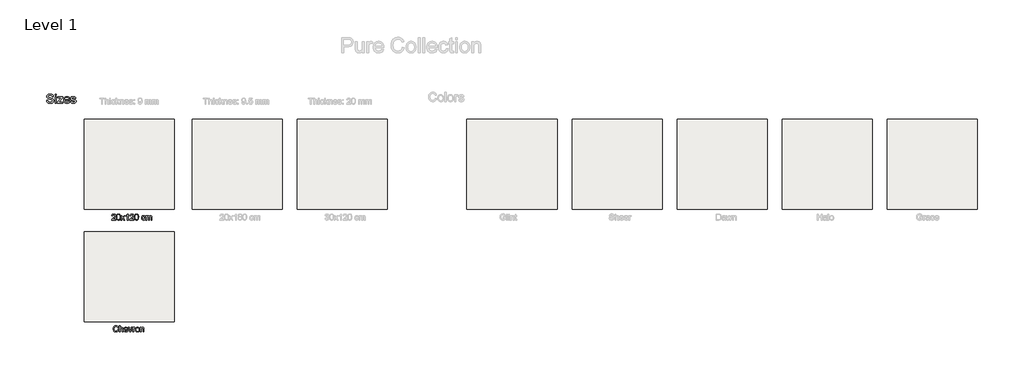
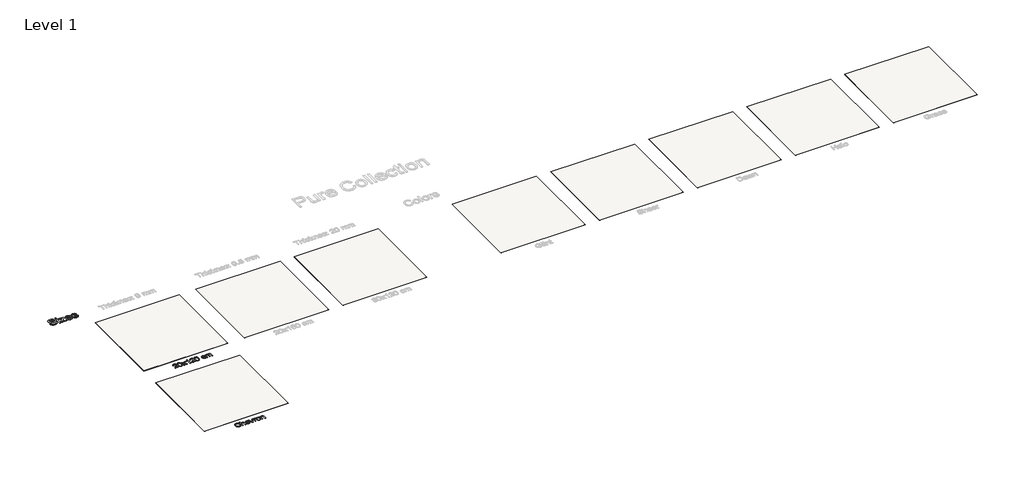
# One storey, part 1 of 5: 9 slabs, 3 proxies.
"""IFC4 building model written with IfcOpenShell, lengths in millimetres."""

from ifc_helpers import new_model, si_unit, frame, origin, origin_with_axes, place, context, project, spatial, polyline, outline, extrude, element, save

model = new_model("IFC4")

# Units and contexts
model_context = context("Model", 3, world=origin())
ifc_project = project(units=[si_unit("LENGTHUNIT", "METRE", prefix="MILLI")], contexts=[model_context])

# Site, building, storey
site = spatial("IfcSite", under=ifc_project)
building = spatial("IfcBuilding", under=site)
storey = spatial("IfcBuildingStorey", under=building, Name="Level 1", Elevation=0.0)

# Proxies
placement = place(None, origin())
element("IfcBuildingElementProxy", 1, Name="400mm Arial", ObjectType="400mm Arial", at=placement, inside=storey, context=model_context, shape_type="SweptSolid", body=[
    extrude(outline(polyline([(-22046.8810506, 3955.3358974), (-22046.8810506, 3905.1077423), (-22310.5788647, 3905.1077423), (-22309.4752187, 3922.7906035), (-22305.1832621, 3939.7377008), (-22292.7856389, 3966.8015529), (-22274.624531, 3993.0560646), (-22248.3700193, 4020.5368497), (-22211.6921844, 4051.2795217), (-22157.5031665, 4099.4230122), (-22125.0191863, 4134.9604129), (-22108.7955903, 4163.8023613), (-22103.387725, 4191.8594948), (-22108.5012847, 4217.0103605), (-22123.8419639, 4237.9183206), (-22147.4231998, 4252.008201), (-22177.2584296, 4256.7048278), (-22208.5897129, 4252.1185656), (-22232.9312382, 4238.359779), (-22248.6397994, 4216.5075885), (-22254.0721902, 4187.6411146), (-22304.3003453, 4193.919634), (-22299.9807976, 4219.8491833), (-22292.1234513, 4242.5045828), (-22280.7283065, 4261.8858326), (-22265.7953631, 4277.9929326), (-22247.6679778, 4290.6542046), (-22226.6895071, 4299.6979703), (-22202.8599508, 4305.1242298), (-22176.1793091, 4306.9329829), (-22149.2595441, 4304.9218947), (-22125.3012292, 4298.8886299), (-22104.3043643, 4288.8331887), (-22086.2689495, 4274.7555711), (-22071.7835959, 4257.6981092), (-22061.4369148, 4238.7031355), (-22055.2289062, 4217.77065), (-22053.1595699, 4194.9006526), (-22055.3913874, 4170.8779584), (-22062.0868397, 4147.272197), (-22073.9694281, 4123.2617654), (-22091.762654, 4098.0250606), (-22120.1263558, 4067.8955252), (-22163.7203722, 4029.206602), (-22221.5023709, 3980.8914333), (-22244.1639018, 3955.3358974), (-22046.8810506, 3955.3358974)])), origin_with_axes(), (0.0, 0.0, 1.0), 5.0),
    extrude(outline(polyline([(-21996.6528955, 4102.783001), (-21992.9618128, 4167.1010365), (-21981.8885647, 4218.3960494), (-21963.5435159, 4257.4528546), (-21951.6854529, 4272.6862348), (-21938.0370309, 4285.0562669), (-21922.5522646, 4294.6273302), (-21905.1851687, 4301.4638039), (-21864.8039884, 4306.9329829), (-21833.8528499, 4303.6956213), (-21806.1390729, 4293.9835367), (-21782.9625072, 4278.1768736), (-21765.6230025, 4256.6557769), (-21752.5264035, 4229.6041875), (-21742.0785548, 4197.2060465), (-21735.2359497, 4156.0645767), (-21732.9550813, 4102.783001), (-21736.6093758, 4038.8328476), (-21747.5722593, 3987.660462), (-21765.8069435, 3948.5668687), (-21777.6374153, 3933.2875031), (-21791.2766403, 3920.8530917), (-21806.7798007, 3911.2176491), (-21824.2020789, 3904.3351901), (-21864.8039884, 3898.8292229), (-21892.4687144, 3901.2204559), (-21916.9941808, 3908.3941548), (-21938.3803874, 3920.3503196), (-21956.6273344, 3937.0889504), (-21974.1385174, 3967.3472445), (-21986.6465052, 4005.0490177), (-21994.1512979, 4050.1942698), (-21996.6528955, 4102.783001)]), holes=[polyline([(-21946.4247404, 4102.8811029), (-21944.9532124, 4059.2165758), (-21940.5386285, 4023.8723131), (-21933.1809886, 3996.8483149), (-21922.8802927, 3978.1445811), (-21910.4213558, 3965.4189297), (-21896.5889928, 3956.3291788), (-21881.3832037, 3950.8753282), (-21864.8039884, 3949.057378), (-21848.2247732, 3950.8814596), (-21833.018984, 3956.3537042), (-21819.186621, 3965.474112), (-21806.7276841, 3978.2426829), (-21796.4269882, 3996.9770736), (-21789.0693483, 4023.9949404), (-21784.6547644, 4059.2962835), (-21783.1832364, 4102.8811029), (-21784.6057135, 4145.3898675), (-21788.8731446, 4180.1117964), (-21795.9855298, 4207.0468898), (-21805.9428692, 4226.1951477), (-21818.1933396, 4239.5431328), (-21832.1851182, 4249.0774078), (-21847.9182048, 4254.7979728), (-21865.3925996, 4256.7048278), (-21881.8859757, 4255.0248334), (-21896.8342475, 4249.9848501), (-21910.2374148, 4241.5848778), (-21922.0954778, 4229.8249167), (-21932.7395302, 4208.9782703), (-21940.3424247, 4180.8720859), (-21944.9041615, 4145.5063634), (-21946.4247404, 4102.8811029)])]), origin_with_axes(), (0.0, 0.0, 1.0), 5.0),
    extrude(outline(polyline([(-21707.8410038, 3905.1077423), (-21600.5175631, 4053.5358646), (-21701.5624844, 4200.1981534), (-21641.3279391, 4200.1981534), (-21592.571312, 4129.4667084), (-21569.7135773, 4096.2101761), (-21549.8970005, 4123.4824946), (-21494.3713447, 4200.1981534), (-21433.9405957, 4200.1981534), (-21540.086814, 4053.4377628), (-21437.8646703, 3905.1077423), (-21498.1973175, 3905.1077423), (-21559.8052889, 3994.3804398), (-21570.9889016, 4010.7634513), (-21647.4102547, 3905.1077423), (-21707.8410038, 3905.1077423)])), origin_with_axes(), (0.0, 0.0, 1.0), 5.0),
    extrude(outline(polyline([(-21218.1164918, 3905.1077423), (-21268.3446469, 3905.1077423), (-21268.3446469, 4218.2488966), (-21289.3139206, 4201.2895366), (-21315.9240516, 4184.3547021), (-21368.800957, 4158.9953699), (-21368.800957, 4206.4766728), (-21329.3517444, 4227.9364558), (-21295.1755071, 4253.4674663), (-21268.2342823, 4280.6171575), (-21250.4901074, 4306.9329829), (-21218.1164918, 4306.9329829), (-21218.1164918, 3905.1077423)])), origin_with_axes(), (0.0, 0.0, 1.0), 5.0),
    extrude(outline(polyline([(-20841.4053288, 3955.3358974), (-20841.4053288, 3905.1077423), (-21105.1031429, 3905.1077423), (-21103.9994969, 3922.7906035), (-21099.7075403, 3939.7377008), (-21087.3099171, 3966.8015529), (-21069.1488092, 3993.0560646), (-21042.8942975, 4020.5368497), (-21006.2164626, 4051.2795217), (-20952.0274447, 4099.4230122), (-20919.5434645, 4134.9604129), (-20903.3198685, 4163.8023613), (-20897.9120032, 4191.8594948), (-20903.0255629, 4217.0103605), (-20918.3662421, 4237.9183206), (-20941.947478, 4252.008201), (-20971.7827078, 4256.7048278), (-21003.1139911, 4252.1185656), (-21027.4555165, 4238.359779), (-21043.1640776, 4216.5075885), (-21048.5964684, 4187.6411146), (-21098.8246235, 4193.919634), (-21094.5050758, 4219.8491833), (-21086.6477295, 4242.5045828), (-21075.2525847, 4261.8858326), (-21060.3196414, 4277.9929326), (-21042.192256, 4290.6542046), (-21021.2137853, 4299.6979703), (-20997.384229, 4305.1242298), (-20970.7035873, 4306.9329829), (-20943.7838223, 4304.9218947), (-20919.8255074, 4298.8886299), (-20898.8286425, 4288.8331887), (-20880.7932277, 4274.7555711), (-20866.3078741, 4257.6981092), (-20855.961193, 4238.7031355), (-20849.7531844, 4217.77065), (-20847.6838481, 4194.9006526), (-20849.9156656, 4170.8779584), (-20856.6111179, 4147.272197), (-20868.4937063, 4123.2617654), (-20886.2869322, 4098.0250606), (-20914.650634, 4067.8955252), (-20958.2446504, 4029.206602), (-21016.0266491, 3980.8914333), (-21038.68818, 3955.3358974), (-20841.4053288, 3955.3358974)])), origin_with_axes(), (0.0, 0.0, 1.0), 5.0),
    extrude(outline(polyline([(-20791.1771737, 4102.783001), (-20787.486091, 4167.1010365), (-20776.4128429, 4218.3960494), (-20758.0677941, 4257.4528546), (-20746.2097311, 4272.6862348), (-20732.5613091, 4285.0562669), (-20717.0765428, 4294.6273302), (-20699.7094469, 4301.4638039), (-20659.3282666, 4306.9329829), (-20628.3771281, 4303.6956213), (-20600.6633511, 4293.9835367), (-20577.4867854, 4278.1768736), (-20560.1472807, 4256.6557769), (-20547.0506817, 4229.6041875), (-20536.602833, 4197.2060465), (-20529.7602279, 4156.0645767), (-20527.4793595, 4102.783001), (-20531.133654, 4038.8328476), (-20542.0965375, 3987.660462), (-20560.3312217, 3948.5668687), (-20572.1616935, 3933.2875031), (-20585.8009185, 3920.8530917), (-20601.3040789, 3911.2176491), (-20618.7263571, 3904.3351901), (-20659.3282666, 3898.8292229), (-20686.9929926, 3901.2204559), (-20711.518459, 3908.3941548), (-20732.9046656, 3920.3503196), (-20751.1516126, 3937.0889504), (-20768.6627956, 3967.3472445), (-20781.1707834, 4005.0490177), (-20788.6755761, 4050.1942698), (-20791.1771737, 4102.783001)]), holes=[polyline([(-20740.9490186, 4102.8811029), (-20739.4774906, 4059.2165758), (-20735.0629067, 4023.8723131), (-20727.7052668, 3996.8483149), (-20717.4045709, 3978.1445811), (-20704.945634, 3965.4189297), (-20691.113271, 3956.3291788), (-20675.9074819, 3950.8753282), (-20659.3282666, 3949.057378), (-20642.7490514, 3950.8814596), (-20627.5432622, 3956.3537042), (-20613.7108992, 3965.474112), (-20601.2519623, 3978.2426829), (-20590.9512664, 3996.9770736), (-20583.5936265, 4023.9949404), (-20579.1790426, 4059.2962835), (-20577.7075146, 4102.8811029), (-20579.1299917, 4145.3898675), (-20583.3974228, 4180.1117964), (-20590.509808, 4207.0468898), (-20600.4671474, 4226.1951477), (-20612.7176178, 4239.5431328), (-20626.7093964, 4249.0774078), (-20642.442483, 4254.7979728), (-20659.9168778, 4256.7048278), (-20676.4102539, 4255.0248334), (-20691.3585257, 4249.9848501), (-20704.761693, 4241.5848778), (-20716.619756, 4229.8249167), (-20727.2638084, 4208.9782703), (-20734.866703, 4180.8720859), (-20739.4284397, 4145.5063634), (-20740.9490186, 4102.8811029)])]), origin_with_axes(), (0.0, 0.0, 1.0), 5.0),
    extrude(outline(polyline([(-20125.6541189, 4011.8425718), (-20075.4259639, 4005.5640525), (-20080.8890115, 3981.8632549), (-20089.4300051, 3960.8909155), (-20101.0489448, 3942.6470342), (-20115.7458305, 3927.1316111), (-20132.9013942, 3914.7493163), (-20151.8963679, 3905.90482), (-20172.7307516, 3900.5981222), (-20195.4045452, 3898.8292229), (-20223.575109, 3901.297098), (-20248.8332737, 3908.7007231), (-20271.1790392, 3921.0400984), (-20290.6124056, 3938.3152237), (-20306.3424266, 3960.2011368), (-20317.5781558, 3986.372875), (-20324.3195934, 4016.8304386), (-20326.5667392, 4051.5738273), (-20322.7285038, 4096.2714897), (-20311.2137973, 4135.0094638), (-20291.8386789, 4166.2916961), (-20264.4192075, 4188.6221333), (-20231.6163963, 4202.0130379), (-20196.0912583, 4206.4766728), (-20173.8068064, 4204.9438311), (-20153.6499388, 4200.3453062), (-20135.6206553, 4192.6810979), (-20119.7189561, 4181.9512064), (-20106.2146212, 4168.4008863), (-20095.3774307, 4152.2753921), (-20087.2073848, 4133.574724), (-20081.7044833, 4112.298882), (-20131.9326383, 4106.0203626), (-20141.0438491, 4127.9338668), (-20155.2318314, 4143.642428), (-20173.7117702, 4153.0969953), (-20195.6988508, 4156.2485177), (-20212.7655097, 4154.6972819), (-20228.1583055, 4150.0435747), (-20241.8772383, 4142.287396), (-20253.9223079, 4131.4287457), (-20263.7294288, 4117.216238), (-20270.7345151, 4099.3984867), (-20274.9375669, 4077.9754918), (-20276.3385842, 4052.9472534), (-20270.8571424, 4005.8706208), (-20264.0053403, 3987.9333078), (-20254.4128173, 3973.7299971), (-20242.6068709, 3962.9357263), (-20229.1147987, 3955.2255328), (-20213.9366007, 3950.5994167), (-20197.0722769, 3949.057378), (-20171.0630199, 3952.9078762), (-20149.7381269, 3964.4593709), (-20134.2257694, 3984.0061675), (-20125.6541189, 4011.8425718)])), origin_with_axes(), (0.0, 0.0, 1.0), 5.0),
    extrude(outline(polyline([(-20031.4763282, 3905.1077423), (-20031.4763282, 4200.1981534), (-19981.2481731, 4200.1981534), (-19981.2481731, 4151.63773), (-19966.1404858, 4173.9436416), (-19946.7163165, 4191.4180364), (-19923.6378527, 4202.7120137), (-19897.5672819, 4206.4766728), (-19869.6327758, 4202.6384373), (-19847.241025, 4191.1237308), (-19830.5146569, 4172.6928429), (-19819.576299, 4148.1060629), (-19801.2680383, 4173.6432047), (-19780.3846037, 4191.8840203), (-19756.9259952, 4202.8285096), (-19730.8922127, 4206.4766728), (-19710.7843959, 4204.9591595), (-19693.1352572, 4200.4066198), (-19677.9447965, 4192.8190537), (-19665.2130138, 4182.1964611), (-19655.1483755, 4168.4162147), (-19647.9593482, 4151.3556871), (-19643.6459318, 4131.0148785), (-19642.2081263, 4107.3937887), (-19642.2081263, 3905.1077423), (-19692.4362814, 3905.1077423), (-19692.4362814, 4085.8113783), (-19693.6012411, 4110.8641422), (-19697.09612, 4127.7499258), (-19703.6444195, 4139.3136832), (-19713.9696409, 4148.4003684), (-19727.2501809, 4154.2864804), (-19742.6644365, 4156.2485177), (-19769.8754414, 4151.2207971), (-19792.0587257, 4136.1376353), (-19800.6640987, 4124.5677465), (-19806.8107937, 4109.9689627), (-19811.7281497, 4071.6847097), (-19811.7281497, 3905.1077423), (-19861.9563048, 3905.1077423), (-19861.9563048, 4091.4031847), (-19864.8625726, 4119.8036747), (-19873.5813758, 4140.0617099), (-19888.922055, 4152.2018157), (-19911.6939505, 4156.2485177), (-19931.0445435, 4153.5507164), (-19948.8745575, 4145.4573125), (-19963.5898373, 4132.1645097), (-19973.5962276, 4113.8685118), (-19979.3351867, 4088.4846542), (-19981.2481731, 4053.9282721), (-19981.2481731, 3905.1077423), (-20031.4763282, 3905.1077423)])), origin_with_axes(), (0.0, 0.0, 1.0), 5.0),
])
element("IfcBuildingElementProxy", 2, Name="400mm Arial", ObjectType="400mm Arial", at=placement, inside=storey, context=model_context, shape_type="SweptSolid", body=[
    extrude(outline(polyline([(-21912.41779, -3399.8861699), (-21862.1896349, -3412.8356161), (-21872.1285802, -3444.0718632), (-21885.3662006, -3471.3656415), (-21901.9024963, -3494.7169512), (-21921.7374672, -3514.1257921), (-21944.4235236, -3529.3836979), (-21969.5130757, -3540.282202), (-21997.0061234, -3546.8213044), (-22026.9026669, -3549.0010053), (-22057.5319087, -3547.3516676), (-22085.1629122, -3542.4036548), (-22109.7956775, -3534.1569667), (-22131.4302045, -3522.6116035), (-22150.3638645, -3507.9392432), (-22166.8940288, -3490.3115643), (-22181.0206974, -3469.7285667), (-22192.7438703, -3446.1902503), (-22208.5260079, -3394.318889), (-22213.7867205, -3338.7687077), (-22207.8392949, -3280.1773686), (-22200.4050129, -3253.8799374), (-22189.9970181, -3229.5813316), (-22176.8483025, -3207.6831558), (-22161.1918579, -3188.5870146), (-22143.0276844, -3172.2929079), (-22122.3557819, -3158.8008357), (-22099.878192, -3148.2211627), (-22076.2969561, -3140.6642533), (-22025.8235464, -3134.6187259), (-21997.0950283, -3136.5746318), (-21970.7516117, -3142.4423496), (-21946.7932968, -3152.2218794), (-21925.2200835, -3165.9132209), (-21906.387591, -3183.1546238), (-21890.6514386, -3203.5843372), (-21878.0116264, -3227.2023613), (-21868.4681543, -3254.0086961), (-21918.6963094, -3265.9771236), (-21936.1093905, -3229.3483396), (-21959.8990929, -3204.2219994), (-21990.3597221, -3189.6906606), (-22027.7855837, -3184.846881), (-22070.925879, -3190.2179581), (-22089.608153, -3196.9318045), (-22106.3651779, -3206.3311895), (-22133.2573517, -3231.4943179), (-22150.756272, -3264.0150863), (-22160.357992, -3300.7787604), (-22163.5585654, -3338.6706059), (-22159.7693808, -3385.0727882), (-22148.4018272, -3425.1964511), (-22129.0267088, -3457.5087531), (-22101.2148299, -3480.4768523), (-22067.8724585, -3494.1988507), (-22031.9058621, -3498.7728502), (-22010.069, -3497.2154831), (-21989.9795773, -3492.5433817), (-21971.6375942, -3484.7565462), (-21955.0430505, -3473.8549764), (-21940.5883538, -3459.8877233), (-21928.6659115, -3442.9038378), (-21919.2757235, -3422.90332), (-21912.41779, -3399.8861699)])), origin_with_axes(), (0.0, 0.0, 1.0), 5.0),
    extrude(outline(polyline([(-21799.4044411, -3542.7224859), (-21799.4044411, -3140.8972453), (-21749.176286, -3140.8972453), (-21749.176286, -3288.6386545), (-21730.727004, -3267.9514237), (-21710.0091163, -3253.1748302), (-21687.0226229, -3244.3088741), (-21661.767524, -3241.3535554), (-21631.4295221, -3244.5786542), (-21605.3589514, -3254.2539507), (-21584.8311361, -3269.6191554), (-21571.1214004, -3289.9139788), (-21563.3958785, -3317.799434), (-21560.8207045, -3355.9365342), (-21560.8207045, -3542.7224859), (-21611.0488596, -3542.7224859), (-21611.0488596, -3361.135933), (-21615.0465106, -3329.6942852), (-21627.0394636, -3308.1609257), (-21646.3655311, -3295.7265143), (-21672.3625254, -3291.5817105), (-21693.5893166, -3294.3776137), (-21713.516258, -3302.7653231), (-21730.0218968, -3315.9354986), (-21740.9847803, -3333.0787995), (-21747.1284096, -3355.8629578), (-21749.176286, -3385.955705), (-21749.176286, -3542.7224859), (-21799.4044411, -3542.7224859)])), origin_with_axes(), (0.0, 0.0, 1.0), 5.0),
    extrude(outline(polyline([(-21285.1544628, -3454.8232145), (-21235.9073264, -3461.1017339), (-21243.4581043, -3480.8263402), (-21253.6515013, -3498.2087645), (-21266.4875172, -3513.2490067), (-21281.9661522, -3525.9470669), (-21299.9279906, -3536.0331649), (-21320.2136169, -3543.2375207), (-21367.7562334, -3549.0010053), (-21398.9219698, -3546.5147361), (-21426.6909291, -3539.0559286), (-21451.0631112, -3526.6245829), (-21472.0385163, -3509.2206988), (-21488.9059058, -3487.3286544), (-21500.9540412, -3461.4328277), (-21508.1829224, -3431.5332185), (-21510.5925494, -3397.629827), (-21508.1583969, -3362.5768042), (-21500.8559393, -3331.680848), (-21488.6851766, -3304.9419583), (-21471.6461089, -3282.3601351), (-21450.7258861, -3264.4197565), (-21426.9116583, -3251.6052004), (-21400.2034254, -3243.9164667), (-21370.6011875, -3241.3535554), (-21341.9523772, -3243.9103353), (-21316.0442876, -3251.5806749), (-21292.876919, -3264.3645742), (-21272.4502712, -3282.2620333), (-21255.7760198, -3304.7948055), (-21243.8658402, -3331.4846442), (-21236.7197324, -3362.3315495), (-21234.3376965, -3397.3355214), (-21234.6320021, -3410.8735788), (-21460.3643943, -3410.8735788), (-21457.4550609, -3430.9170162), (-21451.6701165, -3448.4711187), (-21443.0095612, -3463.5358864), (-21431.473395, -3476.1113193), (-21417.69928, -3486.025739), (-21402.3248782, -3493.1074675), (-21366.7752148, -3498.7728502), (-21340.0424565, -3496.1486253), (-21317.5280784, -3488.2759506), (-21299.2320805, -3474.6643168), (-21285.1544628, -3454.8232145)]), holes=[polyline([(-21460.3643943, -3360.6454237), (-21284.5658516, -3360.6454237), (-21291.3594058, -3334.1088691), (-21304.676734, -3315.1261582), (-21318.3742069, -3304.8254623), (-21333.9601408, -3297.4678224), (-21351.4345356, -3293.0532385), (-21370.7973913, -3291.5817105), (-21404.6547975, -3296.2783373), (-21432.6506174, -3310.3682177), (-21452.1115749, -3332.3307728), (-21460.3643943, -3360.6454237)])]), origin_with_axes(), (0.0, 0.0, 1.0), 5.0),
    extrude(outline(polyline([(-21111.5141611, -3542.7224859), (-21215.5021384, -3247.6320748), (-21162.4290292, -3247.6320748), (-21099.4476316, -3424.4116362), (-21080.5139716, -3483.8613666), (-21061.972719, -3427.7470996), (-20998.6970159, -3247.6320748), (-20945.5258048, -3247.6320748), (-21048.0422542, -3542.7224859), (-21111.5141611, -3542.7224859)])), origin_with_axes(), (0.0, 0.0, 1.0), 5.0),
    extrude(outline(polyline([(-20901.5761691, -3542.7224859), (-20901.5761691, -3247.6320748), (-20857.6265335, -3247.6320748), (-20857.6265335, -3291.2874049), (-20841.3906747, -3265.9771236), (-20826.4301403, -3251.0656401), (-20811.4205549, -3243.7815766), (-20795.0375433, -3241.3535554), (-20770.0215677, -3245.2285791), (-20744.6131845, -3256.8536501), (-20761.3886035, -3301.8824064), (-20779.0469393, -3294.1568845), (-20796.7052751, -3291.5817105), (-20811.7025977, -3294.0587826), (-20825.1057651, -3301.4899989), (-20835.9337585, -3313.3112737), (-20843.2055592, -3328.9585212), (-20849.3124004, -3357.0156547), (-20851.3480141, -3387.6234367), (-20851.3480141, -3542.7224859), (-20901.5761691, -3542.7224859)])), origin_with_axes(), (0.0, 0.0, 1.0), 5.0),
    extrude(outline(polyline([(-20725.7776264, -3395.1772803), (-20723.061431, -3356.9604724), (-20714.9128448, -3324.0289025), (-20701.3318678, -3296.3825705), (-20682.3185, -3274.0214766), (-20663.1763735, -3259.7292611), (-20642.0476843, -3249.5205357), (-20618.9324322, -3243.3953005), (-20593.8306174, -3241.3535554), (-20566.1199062, -3243.8398246), (-20541.0640766, -3251.298632), (-20518.6631288, -3263.7299778), (-20498.9170627, -3281.1338618), (-20482.8007656, -3302.921673), (-20471.2891249, -3328.5048001), (-20464.3821404, -3357.8832431), (-20462.0798122, -3391.057002), (-20466.1510397, -3441.8001919), (-20478.3647219, -3480.4278014), (-20498.3652397, -3509.3555889), (-20525.7969738, -3530.999313), (-20558.3790558, -3544.5005822), (-20593.8306174, -3549.0010053), (-20621.9459989, -3546.5239332), (-20647.2348204, -3539.0927168), (-20669.6970819, -3526.7073563), (-20689.3327834, -3509.3678516), (-20705.2774022, -3487.3685083), (-20716.6664156, -3461.003632), (-20723.4998237, -3430.2732227), (-20725.7776264, -3395.1772803)]), holes=[polyline([(-20675.5494713, -3395.0791785), (-20674.0963374, -3419.4421636), (-20669.7369358, -3440.5371303), (-20662.4712664, -3458.3640787), (-20652.2993292, -3472.9230086), (-20639.9262314, -3484.2323143), (-20626.0570802, -3492.3103898), (-20610.6918756, -3497.1572351), (-20593.8306174, -3498.7728502), (-20577.0551985, -3497.148038), (-20561.7513075, -3492.2736016), (-20547.9189444, -3484.1495409), (-20535.5581094, -3472.7758559), (-20525.3861722, -3458.0728388), (-20518.1205028, -3439.9607819), (-20513.7611012, -3418.4396852), (-20512.3079673, -3393.5095486), (-20513.7702982, -3369.9191157), (-20518.157291, -3349.3759719), (-20525.4689457, -3331.8801174), (-20535.7052622, -3317.431552), (-20548.1120825, -3306.1222464), (-20561.9352485, -3298.0441709), (-20577.1747601, -3293.1973256), (-20593.8306174, -3291.5817105), (-20610.6918756, -3293.1911942), (-20626.0570802, -3298.0196454), (-20639.9262314, -3306.0670641), (-20652.2993292, -3317.3334502), (-20662.4712664, -3331.8494605), (-20669.7369358, -3349.6457521), (-20674.0963374, -3370.7223247), (-20675.5494713, -3395.0791785)])]), origin_with_axes(), (0.0, 0.0, 1.0), 5.0),
    extrude(outline(polyline([(-20405.5731378, -3542.7224859), (-20405.5731378, -3247.6320748), (-20355.3449827, -3247.6320748), (-20355.3449827, -3288.8348583), (-20337.8951134, -3268.0617883), (-20316.9381024, -3253.2238811), (-20292.4739497, -3244.3211368), (-20264.5026554, -3241.3535554), (-20239.7441971, -3243.7447884), (-20217.0704034, -3250.9184873), (-20198.1612689, -3261.9794726), (-20184.6967879, -3276.0325648), (-20175.5610517, -3293.0409757), (-20169.6381515, -3312.9679171), (-20166.9894012, -3361.5283405), (-20166.9894012, -3542.7224859), (-20217.2175562, -3542.7224859), (-20217.2175562, -3368.2973692), (-20218.6645588, -3342.3249004), (-20223.0055663, -3323.8572242), (-20231.0131311, -3310.6257351), (-20243.4598052, -3300.3618274), (-20259.4136211, -3293.7767397), (-20277.9426109, -3291.5817105), (-20307.3609078, -3296.5113292), (-20332.4381971, -3311.3001854), (-20342.4599158, -3323.3728462), (-20349.6182863, -3339.8723537), (-20353.9133086, -3360.7987079), (-20355.3449827, -3386.1519087), (-20355.3449827, -3542.7224859), (-20405.5731378, -3542.7224859)])), origin_with_axes(), (0.0, 0.0, 1.0), 5.0),
])
element("IfcBuildingElementProxy", 3, Name="600mm Arial", ObjectType="600mm Arial", at=placement, inside=storey, context=model_context, shape_type="SweptSolid", body=[
    extrude(outline(polyline([(-26653.6818115, 11886.1060003), (-26578.3395788, 11886.1060003), (-26569.694352, 11844.2962116), (-26554.0593672, 11810.6901913), (-26529.6687909, 11784.0187467), (-26494.7567895, 11763.0126847), (-26452.0824781, 11749.3826568), (-26404.4049715, 11744.8393142), (-26362.4296359, 11748.2790108), (-26325.6782246, 11758.5981008), (-26295.8981771, 11774.9320614), (-26274.8369328, 11796.4163699), (-26262.3105509, 11821.0828577), (-26258.1350902, 11846.963356), (-26261.2620872, 11872.1816668), (-26270.6430781, 11893.978675), (-26289.6993654, 11912.5751099), (-26321.8522518, 11928.1917006), (-26431.5546628, 11956.9600726), (-26503.5675633, 11975.9979658), (-26549.6447832, 11994.1161541), (-26587.1503526, 12019.4632236), (-26613.7298268, 12050.1813702), (-26629.5671467, 12085.6084063), (-26634.8462533, 12125.0821444), (-26633.213777, 12147.5183476), (-26628.3163479, 12169.2095897), (-26620.1539661, 12190.1558708), (-26608.7266317, 12210.3571909), (-26594.1631032, 12228.9904139), (-26576.5921394, 12245.232404), (-26556.0137403, 12259.0831611), (-26532.4279059, 12270.5426853), (-26479.4161103, 12285.9385468), (-26420.7389321, 12291.0705006), (-26357.1689233, 12285.6994235), (-26301.5451657, 12269.5861921), (-26277.2097717, 12257.584042), (-26255.8542219, 12243.0619002), (-26237.4785162, 12226.0197668), (-26222.0826547, 12206.4576417), (-26209.786199, 12184.945742), (-26200.7087108, 12162.0542849), (-26194.85019, 12137.7832703), (-26192.2106367, 12112.1326982), (-26267.5528693, 12112.1326982), (-26272.5928527, 12136.1737865), (-26281.3852323, 12157.087878), (-26293.9300084, 12174.8749724), (-26310.2271808, 12189.5350699), (-26330.5802521, 12200.9945941), (-26355.2927252, 12209.1799685), (-26384.3645998, 12214.0911931), (-26417.7958762, 12215.728268), (-26452.2940103, 12214.1095872), (-26481.7705551, 12209.2535449), (-26506.2255107, 12201.160141), (-26525.6588771, 12189.8293755), (-26540.4661274, 12176.2085447), (-26551.0427348, 12161.2449445), (-26557.3886992, 12144.9385751), (-26559.5040207, 12127.2894364), (-26558.0049016, 12112.105107), (-26553.5075442, 12098.3371233), (-26546.0119485, 12085.9854853), (-26535.5181146, 12075.050193), (-26519.000213, 12064.6943149), (-26492.990956, 12054.2280721), (-26412.4983754, 12032.9644928), (-26329.4306209, 12012.7677713), (-26279.1779404, 11995.1462237), (-26236.2277174, 11967.8125914), (-26219.6224439, 11951.7453453), (-26206.2637289, 11934.0778125), (-26195.9952227, 11914.9019635), (-26188.6605755, 11894.3097688), (-26182.7928576, 11848.8763424), (-26184.4805163, 11825.3089021), (-26189.5434922, 11802.4312405), (-26197.9817855, 11780.2433577), (-26209.7953961, 11758.7452536), (-26224.7773903, 11738.7692612), (-26242.7208346, 11721.1477137), (-26263.625729, 11705.8806109), (-26287.4920735, 11692.9679528), (-26313.6254907, 11682.6994467), (-26341.3316035, 11675.3647994), (-26401.4619156, 11669.4970816), (-26440.0021531, 11671.0789741), (-26475.2774379, 11675.8246519), (-26507.28777, 11683.7341148), (-26536.0331494, 11694.8073628), (-26561.68832, 11709.0627901), (-26584.4280259, 11726.5187908), (-26604.2522669, 11747.1753648), (-26621.1610431, 11771.0325122), (-26634.781874, 11797.3176808), (-26644.742279, 11825.2583183), (-26651.0422581, 11854.8544248), (-26653.6818115, 11886.1060003)])), origin_with_axes(), (0.0, 0.0, 1.0), 5.0),
    extrude(outline(polyline([(-26079.1972878, 12206.3104889), (-26079.1972878, 12281.6527215), (-26003.8550552, 12281.6527215), (-26003.8550552, 12206.3104889), (-26079.1972878, 12206.3104889)])), origin_with_axes(), (0.0, 0.0, 1.0), 5.0),
    extrude(outline(polyline([(-26079.1972878, 11678.9148606), (-26079.1972878, 12121.5504772), (-26003.8550552, 12121.5504772), (-26003.8550552, 11678.9148606), (-26079.1972878, 11678.9148606)])), origin_with_axes(), (0.0, 0.0, 1.0), 5.0),
    extrude(outline(polyline([(-25937.9306016, 11678.9148606), (-25937.9306016, 11749.8425093), (-25677.9116075, 12046.2082446), (-25754.8725208, 12046.2082446), (-25919.0950435, 12046.2082446), (-25919.0950435, 12121.5504772), (-25570.6372177, 12121.5504772), (-25570.6372177, 12057.5390101), (-25801.2256522, 11794.5769599), (-25836.5423238, 11754.2570932), (-25749.4278673, 11754.2570932), (-25561.2194386, 11754.2570932), (-25561.2194386, 11678.9148606), (-25937.9306016, 11678.9148606)])), origin_with_axes(), (0.0, 0.0, 1.0), 5.0),
    extrude(outline(polyline([(-25175.9734132, 11810.7637677), (-25102.1027086, 11801.3459886), (-25113.4288755, 11771.7590792), (-25128.718971, 11745.6854428), (-25147.9729949, 11723.1250794), (-25171.1909473, 11704.0779891), (-25198.1337049, 11688.9488421), (-25228.5621444, 11678.1423084), (-25262.4762659, 11671.6583883), (-25299.8760692, 11669.4970816), (-25346.6246737, 11673.2264853), (-25388.2781127, 11684.4146965), (-25424.8363859, 11703.0617151), (-25456.2994936, 11729.1675412), (-25481.6005778, 11762.0056078), (-25499.6727808, 11800.8493479), (-25510.5161026, 11845.6987617), (-25514.1305432, 11896.553849), (-25510.4793144, 11949.1333831), (-25499.525628, 11995.4773175), (-25481.269484, 12035.585652), (-25455.7108824, 12069.4583867), (-25424.3305482, 12096.3689547), (-25388.6092064, 12115.5907889), (-25348.5468572, 12127.1238895), (-25304.1435004, 12130.9682563), (-25261.1702848, 12127.1330865), (-25222.3081505, 12115.6275771), (-25187.5570976, 12096.4517281), (-25156.9171259, 12069.6055395), (-25131.9057487, 12035.8063812), (-25114.0404793, 11995.7716231), (-25103.3213177, 11949.5012651), (-25099.7482638, 11896.9953074), (-25100.1897222, 11876.6882212), (-25438.7883106, 11876.6882212), (-25434.4243104, 11846.6230652), (-25425.7468939, 11820.2919114), (-25412.7560609, 11797.6947598), (-25395.4518116, 11778.8316105), (-25374.790639, 11763.9599809), (-25351.7290364, 11753.3373883), (-25326.2670038, 11746.9638327), (-25298.4045412, 11744.8393142), (-25258.3054038, 11748.7756515), (-25224.5338366, 11760.5846636), (-25197.0898398, 11781.0021143), (-25175.9734132, 11810.7637677)]), holes=[polyline([(-25438.7883106, 11952.0304539), (-25175.0904964, 11952.0304539), (-25185.2808277, 11991.8352857), (-25194.0456162, 12007.4886646), (-25205.2568201, 12020.3093522), (-25225.8030295, 12035.760396), (-25249.1819303, 12046.7968558), (-25275.3935224, 12053.4187317), (-25304.437806, 12055.6260237), (-25330.9299081, 12053.8647886), (-25355.2239154, 12048.5810835), (-25377.3198277, 12039.7749082), (-25397.2176451, 12027.4462629), (-25413.9148892, 12012.1653645), (-25426.4090815, 11994.5024302), (-25434.7002219, 11974.45746), (-25438.7883106, 11952.0304539)])]), origin_with_axes(), (0.0, 0.0, 1.0), 5.0),
    extrude(outline(polyline([(-25052.6593685, 11810.7637677), (-24977.3171358, 11820.1815468), (-24972.7645961, 11803.0014576), (-24965.4345474, 11787.955084), (-24955.3269896, 11775.042426), (-24942.4419227, 11764.2634835), (-24926.7425586, 11755.7654094), (-24908.1921089, 11749.6953565), (-24862.5379533, 11744.8393142), (-24817.4356207, 11749.2906863), (-24799.9060437, 11754.8549015), (-24785.7241928, 11762.6448027), (-24766.962211, 11781.9953957), (-24762.2717156, 11792.8295204), (-24760.7082171, 11804.4361974), (-24762.2809126, 11814.6081346), (-24766.9989992, 11823.6396375), (-24785.8713455, 11838.2813409), (-24814.0878946, 11847.8462728), (-24863.4208701, 11859.7656495), (-24932.178015, 11879.6496713), (-24976.8756774, 11896.6274254), (-25005.5888672, 11915.1502838), (-25026.392594, 11939.6696188), (-25039.0293405, 11968.6219318), (-25043.2415894, 12000.4437244), (-25039.857075, 12029.6351607), (-25029.703532, 12056.5825169), (-25013.7006652, 12080.2189351), (-24992.7681796, 12099.4775575), (-24971.9644528, 12111.5992693), (-24944.8699439, 12121.7712064), (-24913.544792, 12128.6689938), (-24880.0491363, 12130.9682563), (-24831.0104664, 12127.2710423), (-24788.3729431, 12116.1794001), (-24754.0863412, 12098.7785817), (-24730.1004351, 12076.153839), (-24714.2079329, 12046.6313089), (-24704.2015426, 12008.5371283), (-24779.5437752, 11999.1193492), (-24789.0535248, 12022.8293438), (-24807.8706889, 12040.6900147), (-24836.1792084, 12051.8920214), (-24874.1630244, 12055.6260237), (-24917.425947, 12052.0575683), (-24946.2678954, 12041.3522023), (-24962.4914914, 12025.9011585), (-24967.8993568, 12008.0956699), (-24965.6552766, 11996.5073871), (-24958.9230361, 11986.169903), (-24947.4083296, 11976.9360649), (-24930.8168516, 11969.5416368), (-24865.9224677, 11953.5019818), (-24755.33714, 11918.0381575), (-24726.1273095, 11901.0787975), (-24703.9808134, 11877.8654436), (-24690.0196917, 11848.3245194), (-24685.3659845, 11812.3824485), (-24690.8290321, 11775.226367), (-24707.218175, 11740.2775774), (-24733.9080137, 11710.2768007), (-24770.273149, 11687.9647577), (-24814.1982592, 11674.1140006), (-24863.5680229, 11669.4970816), (-24904.1178158, 11671.7227676), (-24939.5356549, 11678.3998258), (-24969.8215402, 11689.5282562), (-24994.9754716, 11705.1080587), (-25015.521681, 11725.0656569), (-25031.9844003, 11749.3274745), (-25044.3636295, 11777.8935114), (-25052.6593685, 11810.7637677)])), origin_with_axes(), (0.0, 0.0, 1.0), 5.0),
])

# Slabs
element("IfcSlab", 4, ObjectType="Ceramiche Caesar - Pure - Glint - 20x120 - 9 mm - Matt", at=placement, inside=storey, context=model_context, shape_type="SweptSolid", body=[
    extrude(outline(polyline([(-18158.5426311, 4620.2392866), (-24158.5426311, 4620.2392866), (-24158.5426311, 10620.2392866), (-18158.5426311, 10620.2392866), (-18158.5426311, 4620.2392866)])), frame((0.0, 0.0, -9.0), z_axis=(0.0, 0.0, 1.0), x_axis=(1.0, 0.0, 0.0)), (0.0, 0.0, 1.0), 9.0),
])
element("IfcSlab", 5, ObjectType="Ceramiche Caesar - Pure - Halo - 20x120 - Chevron - 9 mm - Matt", at=placement, inside=storey, context=model_context, shape_type="SweptSolid", body=[
    extrude(outline(polyline([(-18158.5426311, -2879.7607134), (-24158.5426311, -2879.7607134), (-24158.5426311, 3120.2392866), (-18158.5426311, 3120.2392866), (-18158.5426311, -2879.7607134)])), frame((0.0, 0.0, -9.0), z_axis=(0.0, 0.0, 1.0), x_axis=(1.0, 0.0, 0.0)), (0.0, 0.0, 1.0), 9.0),
])
element("IfcSlab", 6, ObjectType="Ceramiche Caesar - Pure - Sheer - 20x180 - 9.5 mm - Matt", at=placement, inside=storey, context=model_context, shape_type="SweptSolid", body=[
    extrude(outline(polyline([(-10958.5426311, 4620.2392866), (-16958.5426311, 4620.2392866), (-16958.5426311, 10620.2392866), (-10958.5426311, 10620.2392866), (-10958.5426311, 4620.2392866)])), frame((0.0, 0.0, -9.5), z_axis=(0.0, 0.0, 1.0), x_axis=(1.0, 0.0, 0.0)), (0.0, 0.0, 1.0), 9.5),
])
element("IfcSlab", 7, ObjectType="Ceramiche Caesar - Pure - Dawn - 30x120 - 20 mm - AExtra20", at=placement, inside=storey, context=model_context, shape_type="SweptSolid", body=[
    extrude(outline(polyline([(-3958.5426311, 4620.2392866), (-9958.5426311, 4620.2392866), (-9958.5426311, 10620.2392866), (-3958.5426311, 10620.2392866), (-3958.5426311, 4620.2392866)])), frame((0.0, 0.0, -20.0), z_axis=(0.0, 0.0, 1.0), x_axis=(1.0, 0.0, 0.0)), (0.0, 0.0, 1.0), 20.0),
])
element("IfcSlab", 8, ObjectType="Ceramiche Caesar - Pure - Glint - 20x120 - 9 mm - Matt", at=placement, inside=storey, context=model_context, shape_type="SweptSolid", body=[
    extrude(outline(polyline([(7341.4573689, 4620.2392866), (1341.4573689, 4620.2392866), (1341.4573689, 10620.2392866), (7341.4573689, 10620.2392866), (7341.4573689, 4620.2392866)])), frame((0.0, 0.0, -9.0), z_axis=(0.0, 0.0, 1.0), x_axis=(1.0, 0.0, 0.0)), (0.0, 0.0, 1.0), 9.0),
])
element("IfcSlab", 9, ObjectType="Ceramiche Caesar - Pure - Sheer - 20x120 - 9 mm - Matt", at=placement, inside=storey, context=model_context, shape_type="SweptSolid", body=[
    extrude(outline(polyline([(14341.4573689, 4620.2392866), (8341.4573689, 4620.2392866), (8341.4573689, 10620.2392866), (14341.4573689, 10620.2392866), (14341.4573689, 4620.2392866)])), frame((0.0, 0.0, -9.0), z_axis=(0.0, 0.0, 1.0), x_axis=(1.0, 0.0, 0.0)), (0.0, 0.0, 1.0), 9.0),
])
element("IfcSlab", 10, ObjectType="Ceramiche Caesar - Pure - Dawn - 20x120 - 9 mm - Matt", at=placement, inside=storey, context=model_context, shape_type="SweptSolid", body=[
    extrude(outline(polyline([(21341.4573689, 4620.2392866), (15341.4573689, 4620.2392866), (15341.4573689, 10620.2392866), (21341.4573689, 10620.2392866), (21341.4573689, 4620.2392866)])), frame((0.0, 0.0, -9.0), z_axis=(0.0, 0.0, 1.0), x_axis=(1.0, 0.0, 0.0)), (0.0, 0.0, 1.0), 9.0),
])
element("IfcSlab", 11, ObjectType="Ceramiche Caesar - Pure - Halo - 20x120 - 9 mm - Matt", at=placement, inside=storey, context=model_context, shape_type="SweptSolid", body=[
    extrude(outline(polyline([(28341.4573689, 4620.2392866), (22341.4573689, 4620.2392866), (22341.4573689, 10620.2392866), (28341.4573689, 10620.2392866), (28341.4573689, 4620.2392866)])), frame((0.0, 0.0, -9.0), z_axis=(0.0, 0.0, 1.0), x_axis=(1.0, 0.0, 0.0)), (0.0, 0.0, 1.0), 9.0),
])
element("IfcSlab", 12, ObjectType="Ceramiche Caesar - Pure - Grace - 20x120 - 9 mm - Matt", at=placement, inside=storey, context=model_context, shape_type="SweptSolid", body=[
    extrude(outline(polyline([(35341.4573689, 4620.2392866), (29341.4573689, 4620.2392866), (29341.4573689, 10620.2392866), (35341.4573689, 10620.2392866), (35341.4573689, 4620.2392866)])), frame((0.0, 0.0, -9.0), z_axis=(0.0, 0.0, 1.0), x_axis=(1.0, 0.0, 0.0)), (0.0, 0.0, 1.0), 9.0),
])

save(model, "model.ifc")
